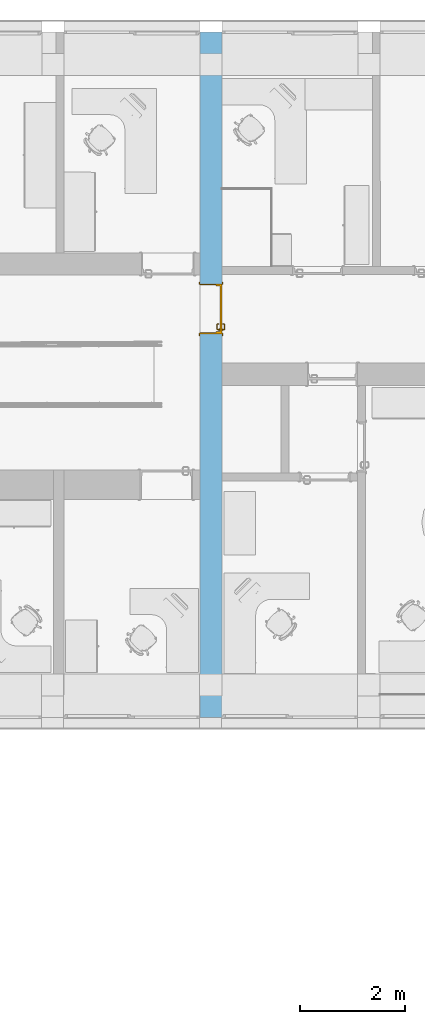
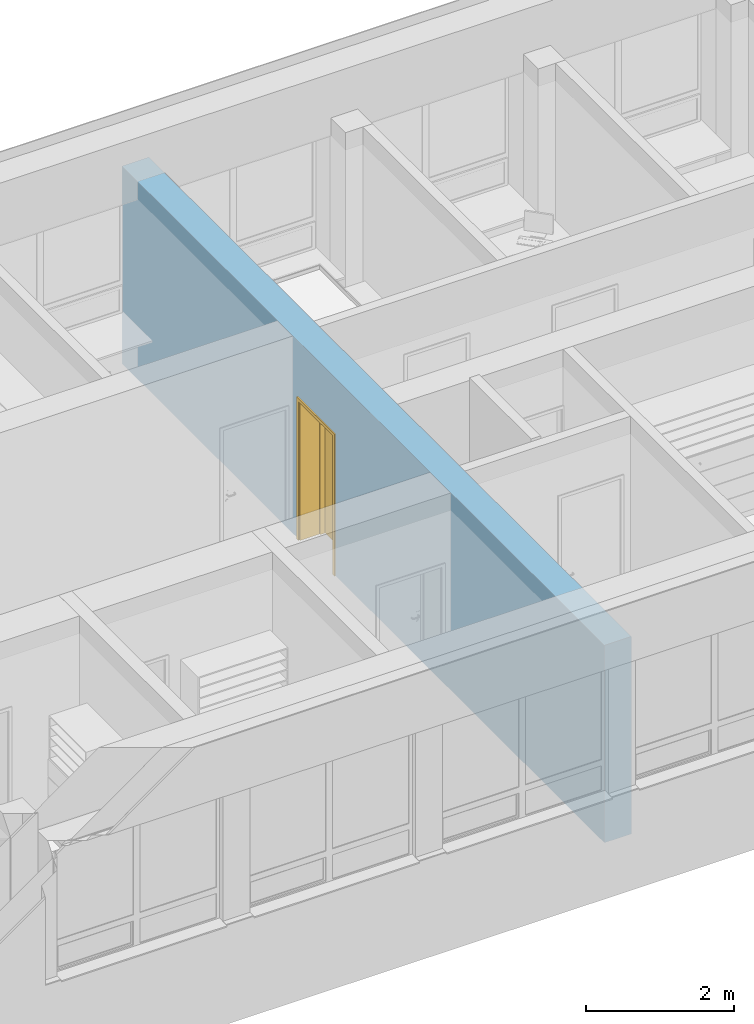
# One storey, part 69 of 194: 1 door, 1 opening, plus 1 element that does not belong to this part.
"""IFC2X3 building model written with IfcOpenShell, lengths in millimetres."""

from ifc_helpers import new_model, entity, si_unit, converted_unit, derived_unit, money_unit, direction, frame, origin_with_axes, origin_2d_with_axis, place, context, subcontext, project, spatial, polyline, rectangle, outline, extrude, open_shell, faceted_brep, surface_model, material, layer, layer_set, layer_usage, type_object, element, fill, save


model = new_model("IFC2X3")

# Units and contexts
model_context = context("Model", 3, precision=1e-05, world=origin_with_axes(), true_north=direction((0.0, 1.0)))
body_context = subcontext(model_context, "Body", "Model", "MODEL_VIEW")
ifc_project = project(units=[si_unit("LENGTHUNIT", "METRE", prefix="MILLI"), si_unit("AREAUNIT", "SQUARE_METRE"), si_unit("VOLUMEUNIT", "CUBIC_METRE"), converted_unit("PLANEANGLEUNIT", "DEGREE", entity("IfcPlaneAngleMeasure", 0.0174532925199), si_unit("PLANEANGLEUNIT", "RADIAN"), dimensions=[0, 0, 0, 0, 0, 0, 0]), si_unit("SOLIDANGLEUNIT", "STERADIAN"), money_unit("EUR"), converted_unit("TIMEUNIT", "Year", entity("IfcTimeMeasure", 31556926.0), si_unit("TIMEUNIT", "SECOND"), dimensions=[0, 0, 1, 0, 0, 0, 0]), si_unit("MASSUNIT", "GRAM", prefix="KILO"), si_unit("THERMODYNAMICTEMPERATUREUNIT", "DEGREE_CELSIUS"), si_unit("LUMINOUSINTENSITYUNIT", "LUMEN"), si_unit("ENERGYUNIT", "JOULE", prefix="MEGA"), derived_unit("THERMALCONDUCTANCEUNIT", [(si_unit("POWERUNIT", "WATT"), 1), (si_unit("LENGTHUNIT", "METRE"), -1), (si_unit("THERMODYNAMICTEMPERATUREUNIT", "KELVIN"), -1)]), derived_unit("SPECIFICHEATCAPACITYUNIT", [(si_unit("ENERGYUNIT", "JOULE"), 1), (si_unit("MASSUNIT", "GRAM", prefix="KILO"), -1), (si_unit("THERMODYNAMICTEMPERATUREUNIT", "KELVIN"), -1)]), derived_unit("MASSDENSITYUNIT", [(si_unit("MASSUNIT", "GRAM", prefix="KILO"), 1), (si_unit("VOLUMEUNIT", "CUBIC_METRE"), -1)])], contexts=[model_context])

# Site, building, storey
site_placement = place(None, origin_with_axes())
site = spatial("IfcSite", under=ifc_project, at=site_placement, Name="Site", CompositionType="ELEMENT")
building_placement = place(site_placement, origin_with_axes())
building = spatial("IfcBuilding", under=site, at=building_placement, Name="Building", CompositionType="ELEMENT")
storey_placement = place(building_placement, frame((0.0, 0.0, 3000.0), z_axis=(0.0, 0.0, 1.0), x_axis=(1.0, 0.0, 0.0)))
storey = spatial("IfcBuildingStorey", under=building, at=storey_placement, Name="2 KORRUS", CompositionType="ELEMENT", Elevation=3000.0)

# Wall, opening, door
ifc_material = material(Name="Kivi -Ol.Olev Konstruktsioon")
ifc_layer = layer(ifc_material, 420.0, ventilated="UNKNOWN")
ifc_layer_set = layer_set([ifc_layer], Name="ol.olev ss 420")
ifc_layer_usage = layer_usage(ifc_layer_set, "AXIS2", "NEGATIVE", 0.0)
wall_type = type_object("IfcWallType", Name="SW - 022", PredefinedType="NOTDEFINED")
wall_placement = place(storey_placement, frame((16157.2281674, 71917.3186821, 0.0), z_axis=(0.0, 0.0, 1.0), x_axis=(-2.03379014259e-07, -1.0, 0.0)))
wall = element("IfcWallStandardCase", 1, at=wall_placement, inside=storey, type_object=wall_type, material=ifc_layer_usage, Name="ol.olev ss 420", context=body_context, shape_type="SweptSolid", body=[
    extrude(outline(polyline([(0.0, -420.0), (13011.3600933, -420.0), (13011.3600933, 0.0), (0.0, 0.0), (0.0, -420.0)])), origin_with_axes(), (0.0, 0.0, 1.0), 3250.0),
])
opening_placement = place(wall_placement, frame((5254.87826335, -1.13686837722e-10, 0.0), z_axis=(0.0, 0.0, 1.0), x_axis=(1.0, 0.0, 0.0)))
opening = element("IfcOpeningElement", 2, at=opening_placement, cuts=wall, Name="Siseuks * Door 22", context=body_context, shape_type="SweptSolid", body=[
    extrude(rectangle(XDim=950.0, YDim=2300.0, at=origin_2d_with_axis()), frame((0.0, -420.0, 1150.0), z_axis=(0.0, -1.0, 0.0), x_axis=(-1.0, 0.0, 0.0)), (0.0, 0.0, -1.0), 1260.0),
    extrude(rectangle(XDim=1024.0, YDim=2337.0, at=origin_2d_with_axis()), frame((0.0, -420.0, 1168.5), z_axis=(0.0, -1.0, 0.0), x_axis=(-1.0, 0.0, 0.0)), (0.0, 0.0, 1.0), 420.0),
    extrude(rectangle(XDim=1024.0, YDim=2337.0, at=origin_2d_with_axis()), frame((0.0, 0.0, 1168.5), z_axis=(0.0, 1.0, 0.0), x_axis=(-1.0, 0.0, 0.0)), (0.0, 0.0, 1.0), 420.0),
])
door_style = type_object("IfcDoorStyle", Name="SU-A200   950×2\xa0300", ConstructionType="NOTDEFINED", OperationType="SINGLE_SWING_LEFT", ParameterTakesPrecedence=False, Sizeable=False)
door_placement = place(opening_placement, frame((-475.0, 2.27373675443e-10, 0.0), z_axis=(0.0, 0.0, 1.0), x_axis=(1.0, 0.0, 0.0)))
door = element("IfcDoor", 3, at=door_placement, inside=storey, type_object=door_style, Name="Siseuks * Door 22", OverallHeight=2300.0, OverallWidth=950.0, context=body_context, shape_type="SurfaceModel", body=[
    faceted_brep([(950.0, -115.0, 0.0), (950.0, -420.0, 0.0), (925.0, -420.0, 0.0), (924.999999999, -115.0, 0.0), (950.0, -115.0, 2300.0), (950.0, -420.0, 2300.0), (925.0, -420.0, 2275.0), (924.999999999, -115.0, 2275.0)], [[[0, 1, 2, 3]], [[4, 5, 1, 0]], [[1, 5, 6, 2]], [[3, 2, 6, 7]], [[0, 3, 7, 4]], [[7, 6, 5, 4]]]),
    faceted_brep([(0.0, -115.0, 2300.0), (9.09494701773e-10, -420.0, 2300.0), (25.0000000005, -420.0, 2275.0), (25.0000000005, -115.0, 2275.0), (0.0, -115.0, 0.0), (9.09494701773e-10, -420.0, 0.0), (25.0000000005, -420.0, 0.0), (25.0000000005, -115.0, 0.0)], [[[0, 1, 2, 3]], [[4, 5, 1, 0]], [[1, 5, 6, 2]], [[3, 2, 6, 7]], [[0, 3, 7, 4]], [[7, 6, 5, 4]]]),
    faceted_brep([(924.999999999, -115.0, 2275.0), (925.0, -420.0, 2275.0), (25.0000000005, -420.0, 2275.0), (25.0000000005, -115.0, 2275.0), (950.0, -115.0, 2300.0), (950.0, -420.0, 2300.0), (9.09494701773e-10, -420.0, 2300.0), (0.0, -115.0, 2300.0)], [[[0, 1, 2, 3]], [[4, 5, 1, 0]], [[1, 5, 6, 2]], [[3, 2, 6, 7]], [[0, 3, 7, 4]], [[7, 6, 5, 4]]]),
    faceted_brep([(986.999999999, -439.0, 0.0), (936.999999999, -439.0, 0.0), (937.0, -420.0, 0.0), (987.0, -420.0, 0.0), (986.999999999, -439.0, 2337.0), (936.999999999, -439.0, 2287.0), (937.0, -420.0, 2287.0), (987.0, -420.0, 2337.0)], [[[0, 1, 2, 3]], [[0, 4, 5, 1]], [[1, 5, 6, 2]], [[3, 2, 6, 7]], [[4, 0, 3, 7]], [[5, 4, 7, 6]]]),
    faceted_brep([(-36.9999999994, -439.0, 2337.0), (12.9999999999, -439.0, 2287.0), (13.0000000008, -420.0, 2287.0), (-36.9999999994, -420.0, 2337.0), (-36.9999999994, -439.0, 0.0), (12.9999999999, -439.0, 0.0), (13.0000000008, -420.0, 0.0), (-36.9999999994, -420.0, 0.0)], [[[0, 1, 2, 3]], [[0, 4, 5, 1]], [[1, 5, 6, 2]], [[3, 2, 6, 7]], [[4, 0, 3, 7]], [[5, 4, 7, 6]]]),
    faceted_brep([(986.999999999, -439.0, 2337.0), (936.999999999, -439.0, 2287.0), (937.0, -420.0, 2287.0), (987.0, -420.0, 2337.0), (-36.9999999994, -439.0, 2337.0), (12.9999999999, -439.0, 2287.0), (13.0000000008, -420.0, 2287.0), (-36.9999999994, -420.0, 2337.0)], [[[0, 1, 2, 3]], [[0, 4, 5, 1]], [[1, 5, 6, 2]], [[3, 2, 6, 7]], [[4, 0, 3, 7]], [[5, 4, 7, 6]]]),
    faceted_brep([(987.0, 18.9999999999, 0.0), (986.999999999, -1.13686837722e-10, 0.0), (937.0, -1.13686837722e-10, 0.0), (937.0, 18.9999999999, 0.0), (987.0, 18.9999999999, 2337.0), (986.999999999, -1.13686837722e-10, 2337.0), (937.0, -1.13686837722e-10, 2287.0), (937.0, 18.9999999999, 2287.0)], [[[0, 1, 2, 3]], [[4, 5, 1, 0]], [[1, 5, 6, 2]], [[3, 2, 6, 7]], [[0, 3, 7, 4]], [[7, 6, 5, 4]]]),
    faceted_brep([(-36.9999999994, 19.0, 2337.0), (-36.9999999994, 0.0, 2337.0), (12.9999999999, 0.0, 2287.0), (13.0000000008, 19.0, 2287.0), (-36.9999999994, 19.0, 0.0), (-36.9999999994, 0.0, 0.0), (12.9999999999, 0.0, 0.0), (13.0000000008, 19.0, 0.0)], [[[0, 1, 2, 3]], [[4, 5, 1, 0]], [[1, 5, 6, 2]], [[3, 2, 6, 7]], [[0, 3, 7, 4]], [[7, 6, 5, 4]]]),
    faceted_brep([(987.0, 18.9999999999, 2337.0), (986.999999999, -1.13686837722e-10, 2337.0), (937.0, -1.13686837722e-10, 2287.0), (937.0, 18.9999999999, 2287.0), (-36.9999999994, 19.0, 2337.0), (-36.9999999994, 0.0, 2337.0), (12.9999999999, 0.0, 2287.0), (13.0000000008, 19.0, 2287.0)], [[[0, 1, 2, 3]], [[4, 5, 1, 0]], [[1, 5, 6, 2]], [[3, 2, 6, 7]], [[0, 3, 7, 4]], [[7, 6, 5, 4]]]),
    faceted_brep([(910.0, -40.0000000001, 0.0), (910.0, -115.0, 0.0), (910.0, -115.0, 2260.0), (910.0, -40.0000000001, 2260.0), (922.0, -40.0000000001, 0.0), (922.0, -1.13686837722e-10, 0.0), (950.0, -1.13686837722e-10, 0.0), (950.0, -115.0, 0.0), (950.0, -115.0, 2260.0), (922.0, -40.0000000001, 2260.0), (950.0, -1.13686837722e-10, 2260.0), (922.0, -1.13686837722e-10, 2260.0)], [[[0, 1, 2, 3]], [[4, 5, 6, 7, 1, 0]], [[1, 7, 8, 2]], [[9, 3, 2, 8, 10, 11]], [[9, 4, 0, 3]], [[11, 5, 4, 9]], [[11, 10, 6, 5]], [[6, 10, 8, 7]]]),
    faceted_brep([(28.0000000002, -40.0000000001, 2260.0), (28.0000000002, 0.0, 2260.0), (0.0, 0.0, 2260.0), (0.0, -115.0, 2260.0), (40.0, -115.0, 2260.0), (40.0000000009, -40.0000000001, 2260.0), (28.0000000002, -40.0000000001, 0.0), (28.0000000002, 0.0, 0.0), (0.0, 0.0, 0.0), (0.0, -115.0, 0.0), (40.0, -115.0, 0.0), (40.0000000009, -40.0000000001, 0.0)], [[[0, 1, 2, 3, 4, 5]], [[0, 6, 7, 1]], [[7, 8, 2, 1]], [[2, 8, 9, 3]], [[3, 9, 10, 4]], [[5, 4, 10, 11]], [[5, 11, 6, 0]], [[6, 11, 10, 9, 8, 7]]]),
    faceted_brep([(922.0, -1.13686837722e-10, 2272.0), (28.0000000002, 0.0, 2272.0), (28.0000000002, 0.0, 2260.0), (0.0, 0.0, 2260.0), (0.0, 0.0, 2300.0), (950.0, -1.13686837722e-10, 2300.0), (950.0, -1.13686837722e-10, 2260.0), (922.0, -1.13686837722e-10, 2260.0), (922.0, -40.0000000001, 2272.0), (28.0000000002, -40.0000000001, 2272.0), (28.0000000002, -40.0000000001, 2260.0), (40.0000000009, -40.0000000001, 2260.0), (40.0, -115.0, 2260.0), (0.0, -115.0, 2260.0), (0.0, -115.0, 2300.0), (950.0, -115.0, 2300.0), (950.0, -115.0, 2260.0), (922.0, -40.0000000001, 2260.0), (910.0, -115.0, 2260.0), (910.0, -40.0000000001, 2260.0)], [[[0, 1, 2, 3, 4, 5, 6, 7]], [[0, 8, 9, 1]], [[1, 9, 10, 2]], [[10, 11, 12, 13, 3, 2]], [[4, 3, 13, 14]], [[5, 4, 14, 15]], [[6, 5, 15, 16]], [[17, 7, 6, 16, 18, 19]], [[7, 17, 8, 0]], [[10, 9, 8, 17, 19, 11]], [[19, 18, 12, 11]], [[12, 18, 16, 15, 14, 13]]]),
    faceted_brep([(900.5, -40.0000000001, 1060.0), (843.5, -40.0000000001, 1060.0), (843.5, -43.0000000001, 1060.0), (900.5, -43.0, 1060.0), (900.5, -40.0000000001, 870.0), (843.5, -40.0000000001, 870.0), (843.5, -43.0000000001, 870.0), (900.5, -43.0, 870.0)], [[[0, 1, 2, 3]], [[0, 4, 5, 1]], [[1, 5, 6, 2]], [[3, 2, 6, 7]], [[4, 0, 3, 7]], [[5, 4, 7, 6]]]),
    surface_model("IfcShellBasedSurfaceModel", [(862.0, -53.0, 1000.0), (864.928932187, -53.0000000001, 992.928932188), (864.928932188, -72.303560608, 992.928932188), (861.999999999, -72.0150859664, 1000.0), (871.999999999, -53.0, 990.0), (871.999999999, -73.0000000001, 990.0), (863.816790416, -77.8946748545, 992.928932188), (861.057796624, -76.7518622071, 1000.0), (864.928932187, -53.0000000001, 1007.07106781), (864.928932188, -72.303560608, 1007.07106781), (879.071067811, -53.0, 992.928932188), (879.071067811, -73.6964393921, 992.928932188), (870.47759065, -80.6536686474, 990.0), (861.044179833, -82.0441798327, 992.928932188), (858.932537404, -79.9325374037, 1000.0), (863.816790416, -77.8946748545, 1007.07106781), (871.999999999, -53.0, 1010.0), (871.999999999, -73.0000000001, 1010.0), (882.0, -53.0000000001, 1000.0), (882.0, -73.9849140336, 1000.0), (877.138390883, -83.4126624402, 992.928932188), (866.142135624, -87.1421356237, 990.0), (856.894674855, -84.8167904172, 992.928932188), (855.751862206, -82.0577966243, 1000.0), (861.044179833, -82.0441798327, 1007.07106781), (870.47759065, -80.6536686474, 1010.0), (879.071067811, -53.0, 1007.07106781), (879.071067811, -73.6964393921, 1007.07106781), (879.897384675, -84.5554750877, 1000.0), (871.240091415, -92.2400914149, 992.928932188), (859.653668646, -91.4775906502, 990.0), (851.303560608, -85.9289321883, 992.928932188), (851.015085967, -83.0000000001, 1000.0), (856.894674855, -84.8167904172, 1007.07106781), (866.142135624, -87.1421356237, 1010.0), (877.138390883, -83.4126624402, 1007.07106781), (873.351733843, -94.3517338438, 1000.0), (862.41266244, -98.1383908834, 992.928932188), (852.0, -93.0000000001, 990.0), (782.696439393, -85.9289321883, 992.928932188), (782.984914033, -83.0000000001, 1000.0), (851.303560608, -85.9289321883, 1007.07106781), (859.653668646, -91.4775906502, 1010.0), (871.240091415, -92.2400914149, 1007.07106781), (863.555475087, -100.897384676, 1000.0), (852.696439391, -100.071067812, 992.928932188), (782.0, -93.0000000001, 990.0), (777.105325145, -84.8167904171, 992.928932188), (778.248137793, -82.0577966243, 1000.0), (782.696439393, -85.9289321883, 1007.07106781), (852.0, -93.0000000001, 1010.0), (862.41266244, -98.1383908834, 1007.07106781), (852.984914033, -103.0, 1000.0), (781.303560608, -100.071067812, 992.928932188), (774.346331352, -91.4775906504, 990.0), (772.955820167, -82.0441798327, 992.928932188), (775.067462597, -79.9325374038, 1000.0), (777.105325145, -84.8167904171, 1007.07106781), (782.0, -93.0000000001, 1010.0), (852.696439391, -100.071067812, 1007.07106781), (781.015085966, -103.0, 1000.0), (771.58733756, -98.1383908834, 992.928932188), (767.857864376, -87.1421356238, 990.0), (770.183209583, -77.8946748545, 992.928932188), (772.942203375, -76.7518622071, 1000.0), (772.955820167, -82.0441798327, 1007.07106781), (774.346331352, -91.4775906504, 1010.0), (781.303560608, -100.071067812, 1007.07106781), (770.444524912, -100.897384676, 1000.0), (762.759908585, -92.2400914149, 992.928932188), (763.522409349, -80.6536686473, 990.0), (769.071067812, -72.303560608, 992.928932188), (772.0, -72.0150859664, 1000.0), (770.183209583, -77.8946748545, 1007.07106781), (767.857864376, -87.1421356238, 1010.0), (771.58733756, -98.1383908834, 1007.07106781), (760.648266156, -94.3517338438, 1000.0), (756.861609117, -83.4126624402, 992.928932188), (762.0, -73.0000000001, 990.0), (769.071067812, -53.0000000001, 992.928932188), (772.0, -53.0, 1000.0), (769.071067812, -72.303560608, 1007.07106781), (763.522409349, -80.6536686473, 1010.0), (762.759908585, -92.2400914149, 1007.07106781), (754.102615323, -84.5554750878, 1000.0), (754.928932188, -73.6964393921, 992.928932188), (762.0, -53.0000000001, 990.0), (754.928932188, -53.0, 992.928932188), (751.999999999, -53.0000000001, 1000.0), (754.928932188, -53.0, 1007.07106781), (762.0, -53.0000000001, 1010.0), (769.071067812, -53.0000000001, 1007.07106781), (762.0, -73.0000000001, 1010.0), (756.861609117, -83.4126624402, 1007.07106781), (752.0, -73.9849140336, 1000.0), (754.928932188, -73.6964393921, 1007.07106781)], [open_shell([[[0, 1, 2, 3]], [[1, 4, 5, 2]], [[3, 2, 6, 7]], [[8, 0, 3, 9]], [[4, 10, 11, 5]], [[2, 5, 12, 6]], [[7, 6, 13, 14]], [[9, 3, 7, 15]], [[16, 8, 9, 17]], [[10, 18, 19, 11]], [[5, 11, 20, 12]], [[6, 12, 21, 13]], [[14, 13, 22, 23]], [[15, 7, 14, 24]], [[17, 9, 15, 25]], [[26, 16, 17, 27]], [[18, 26, 27, 19]], [[11, 19, 28, 20]], [[12, 20, 29, 21]], [[13, 21, 30, 22]], [[23, 22, 31, 32]], [[24, 14, 23, 33]], [[25, 15, 24, 34]], [[27, 17, 25, 35]], [[19, 27, 35, 28]], [[20, 28, 36, 29]], [[21, 29, 37, 30]], [[22, 30, 38, 31]], [[32, 31, 39, 40]], [[33, 23, 32, 41]], [[34, 24, 33, 42]], [[35, 25, 34, 43]], [[28, 35, 43, 36]], [[29, 36, 44, 37]], [[30, 37, 45, 38]], [[31, 38, 46, 39]], [[40, 39, 47, 48]], [[41, 32, 40, 49]], [[42, 33, 41, 50]], [[43, 34, 42, 51]], [[36, 43, 51, 44]], [[37, 44, 52, 45]], [[38, 45, 53, 46]], [[39, 46, 54, 47]], [[48, 47, 55, 56]], [[49, 40, 48, 57]], [[50, 41, 49, 58]], [[51, 42, 50, 59]], [[44, 51, 59, 52]], [[45, 52, 60, 53]], [[46, 53, 61, 54]], [[47, 54, 62, 55]], [[56, 55, 63, 64]], [[57, 48, 56, 65]], [[58, 49, 57, 66]], [[59, 50, 58, 67]], [[52, 59, 67, 60]], [[53, 60, 68, 61]], [[54, 61, 69, 62]], [[55, 62, 70, 63]], [[64, 63, 71, 72]], [[65, 56, 64, 73]], [[66, 57, 65, 74]], [[67, 58, 66, 75]], [[60, 67, 75, 68]], [[61, 68, 76, 69]], [[62, 69, 77, 70]], [[63, 70, 78, 71]], [[72, 71, 79, 80]], [[73, 64, 72, 81]], [[74, 65, 73, 82]], [[75, 66, 74, 83]], [[68, 75, 83, 76]], [[69, 76, 84, 77]], [[70, 77, 85, 78]], [[71, 78, 86, 79]], [[80, 79, 86, 87, 88, 89, 90, 91]], [[81, 72, 80, 91]], [[82, 73, 81, 92]], [[83, 74, 82, 93]], [[76, 83, 93, 84]], [[77, 84, 94, 85]], [[78, 85, 87, 86]], [[85, 94, 88, 87]], [[94, 95, 89, 88]], [[95, 92, 90, 89]], [[92, 81, 91, 90]], [[93, 82, 92, 95]], [[84, 93, 95, 94]]])]),
    faceted_brep([(861.607695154, -53.0, 994.0), (860.0, -53.0, 1000.0), (858.999999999, -43.0, 1000.0), (860.74166975, -43.0000000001, 993.5), (866.0, -53.0000000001, 989.607695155), (871.999999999, -53.0, 988.0), (878.0, -53.0, 989.607695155), (882.392304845, -53.0000000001, 994.0), (884.0, -53.0000000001, 1000.0), (882.392304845, -53.0000000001, 1006.0), (878.0, -53.0, 1010.39230485), (871.999999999, -53.0, 1012.0), (866.0, -53.0000000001, 1010.39230485), (861.607695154, -53.0, 1006.0), (860.74166975, -43.0000000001, 1006.5), (865.5, -43.0, 1011.25833025), (872.0, -43.0, 1013.0), (878.5, -43.0000000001, 1011.25833025), (883.258330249, -43.0000000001, 1006.5), (885.0, -43.0000000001, 1000.0), (883.258330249, -43.0000000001, 993.5), (878.5, -43.0000000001, 988.741669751), (872.0, -43.0, 987.0), (865.5, -43.0, 988.741669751)], [[[0, 1, 2, 3]], [[1, 0, 4, 5, 6, 7, 8, 9, 10, 11, 12, 13]], [[1, 13, 14, 2]], [[2, 14, 15, 16, 17, 18, 19, 20, 21, 22, 23, 3]], [[4, 0, 3, 23]], [[5, 4, 23, 22]], [[6, 5, 22, 21]], [[7, 6, 21, 20]], [[8, 7, 20, 19]], [[9, 8, 19, 18]], [[10, 9, 18, 17]], [[11, 10, 17, 16]], [[12, 11, 16, 15]], [[13, 12, 15, 14]]]),
    faceted_brep([(854.679491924, -47.0, 895.0), (852.0, -47.0, 905.0), (849.999999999, -43.0000000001, 905.0), (852.947441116, -43.0000000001, 894.0), (861.999999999, -47.0, 887.679491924), (871.999999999, -47.0, 885.0), (882.0, -47.0000000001, 887.679491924), (889.320508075, -47.0000000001, 895.0), (892.0, -47.0, 905.0), (889.320508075, -47.0000000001, 915.0), (882.0, -47.0000000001, 922.320508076), (871.999999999, -47.0, 925.0), (861.999999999, -47.0, 922.320508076), (854.679491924, -47.0, 915.0), (852.947441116, -43.0000000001, 916.0), (861.0, -43.0, 924.052558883), (872.0, -43.0, 927.0), (883.0, -43.0000000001, 924.052558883), (891.052558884, -43.0, 916.0), (894.0, -43.0, 905.0), (891.052558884, -43.0, 894.0), (883.0, -43.0000000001, 885.947441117), (872.0, -43.0, 883.0), (861.0, -43.0, 885.947441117)], [[[0, 1, 2, 3]], [[1, 0, 4, 5, 6, 7, 8, 9, 10, 11, 12, 13]], [[1, 13, 14, 2]], [[2, 14, 15, 16, 17, 18, 19, 20, 21, 22, 23, 3]], [[4, 0, 3, 23]], [[5, 4, 23, 22]], [[6, 5, 22, 21]], [[7, 6, 21, 20]], [[8, 7, 20, 19]], [[9, 8, 19, 18]], [[10, 9, 18, 17]], [[11, 10, 17, 16]], [[12, 11, 16, 15]], [[13, 12, 15, 14]]]),
    faceted_brep([(867.050252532, -49.0000000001, 909.050252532), (865.0, -49.0000000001, 914.0), (864.0, -47.0000000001, 914.0), (866.34314575, -47.0, 908.343145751), (872.0, -49.0000000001, 907.0), (876.949747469, -49.0, 909.050252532), (879.0, -49.0, 914.0), (876.949747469, -49.0, 918.949747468), (872.0, -49.0000000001, 921.0), (867.050252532, -49.0000000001, 918.949747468), (866.34314575, -47.0, 919.656854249), (871.999999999, -47.0, 922.0), (877.656854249, -47.0, 919.656854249), (879.999999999, -47.0000000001, 914.0), (877.656854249, -47.0, 908.343145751), (871.999999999, -47.0, 906.0)], [[[0, 1, 2, 3]], [[1, 0, 4, 5, 6, 7, 8, 9]], [[1, 9, 10, 2]], [[2, 10, 11, 12, 13, 14, 15, 3]], [[4, 0, 3, 15]], [[5, 4, 15, 14]], [[6, 5, 14, 13]], [[7, 6, 13, 12]], [[8, 7, 12, 11]], [[9, 8, 11, 10]]]),
    faceted_brep([(900.5, 0.0, 1060.0), (900.5, 2.99999999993, 1060.0), (843.499999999, 2.99999999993, 1060.0), (843.499999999, -1.13686837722e-10, 1060.0), (900.5, 0.0, 870.0), (900.5, 2.99999999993, 870.0), (843.499999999, 2.99999999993, 870.0), (843.499999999, -1.13686837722e-10, 870.0)], [[[0, 1, 2, 3]], [[4, 5, 1, 0]], [[1, 5, 6, 2]], [[3, 2, 6, 7]], [[0, 3, 7, 4]], [[7, 6, 5, 4]]]),
    surface_model("IfcShellBasedSurfaceModel", [(861.999999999, 13.0, 1000.0), (861.999999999, 32.0150859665, 1000.0), (864.928932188, 32.3035606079, 992.928932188), (864.928932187, 12.9999999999, 992.928932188), (864.928932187, 12.9999999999, 1007.07106781), (864.928932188, 32.3035606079, 1007.07106781), (861.057796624, 36.7518622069, 1000.0), (863.816790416, 37.8946748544, 992.928932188), (871.999999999, 32.9999999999, 990.0), (871.999999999, 12.9999999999, 990.0), (871.999999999, 12.9999999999, 1010.0), (871.999999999, 32.9999999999, 1010.0), (863.816790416, 37.8946748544, 1007.07106781), (858.932537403, 39.9325374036, 1000.0), (861.044179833, 42.0441798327, 992.928932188), (870.47759065, 40.6536686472, 990.0), (879.071067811, 33.696439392, 992.928932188), (879.071067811, 13.0, 992.928932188), (879.071067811, 13.0, 1007.07106781), (879.071067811, 33.696439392, 1007.07106781), (870.47759065, 40.6536686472, 1010.0), (861.044179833, 42.0441798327, 1007.07106781), (855.751862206, 42.0577966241, 1000.0), (856.894674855, 44.8167904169, 992.928932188), (866.142135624, 47.1421356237, 990.0), (877.138390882, 43.41266244, 992.928932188), (882.0, 33.9849140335, 1000.0), (882.0, 12.9999999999, 1000.0), (877.138390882, 43.41266244, 1007.07106781), (866.142135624, 47.1421356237, 1010.0), (856.894674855, 44.8167904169, 1007.07106781), (851.015085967, 42.9999999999, 1000.0), (851.303560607, 45.9289321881, 992.928932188), (859.653668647, 51.4775906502, 990.0), (871.240091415, 52.2400914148, 992.928932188), (879.897384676, 44.5554750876, 1000.0), (871.240091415, 52.2400914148, 1007.07106781), (859.653668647, 51.4775906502, 1010.0), (851.303560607, 45.9289321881, 1007.07106781), (782.984914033, 42.9999999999, 1000.0), (782.696439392, 45.9289321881, 992.928932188), (852.0, 52.9999999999, 990.0), (862.41266244, 58.1383908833, 992.928932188), (873.351733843, 54.3517338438, 1000.0), (862.41266244, 58.1383908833, 1007.07106781), (852.0, 52.9999999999, 1010.0), (782.696439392, 45.9289321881, 1007.07106781), (778.248137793, 42.0577966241, 1000.0), (777.105325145, 44.816790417, 992.928932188), (782.0, 52.9999999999, 990.0), (852.696439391, 60.0710678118, 992.928932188), (863.555475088, 60.8973846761, 1000.0), (852.696439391, 60.0710678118, 1007.07106781), (782.0, 52.9999999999, 1010.0), (777.105325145, 44.816790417, 1007.07106781), (775.067462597, 39.9325374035, 1000.0), (772.955820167, 42.0441798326, 992.928932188), (774.346331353, 51.4775906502, 990.0), (781.303560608, 60.0710678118, 992.928932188), (852.984914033, 62.9999999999, 1000.0), (781.303560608, 60.0710678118, 1007.07106781), (774.346331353, 51.4775906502, 1010.0), (772.955820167, 42.0441798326, 1007.07106781), (772.942203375, 36.7518622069, 1000.0), (770.183209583, 37.8946748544, 992.928932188), (767.857864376, 47.1421356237, 990.0), (771.58733756, 58.1383908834, 992.928932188), (781.015085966, 62.9999999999, 1000.0), (771.58733756, 58.1383908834, 1007.07106781), (767.857864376, 47.1421356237, 1010.0), (770.183209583, 37.8946748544, 1007.07106781), (772.0, 32.0150859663, 1000.0), (769.071067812, 32.3035606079, 992.928932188), (763.522409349, 40.6536686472, 990.0), (762.759908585, 52.2400914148, 992.928932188), (770.444524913, 60.8973846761, 1000.0), (762.759908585, 52.2400914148, 1007.07106781), (763.522409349, 40.6536686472, 1010.0), (769.071067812, 32.3035606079, 1007.07106781), (771.999999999, 12.9999999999, 1000.0), (769.071067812, 12.9999999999, 992.928932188), (762.0, 32.9999999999, 990.0), (756.861609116, 43.41266244, 992.928932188), (760.648266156, 54.3517338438, 1000.0), (756.861609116, 43.41266244, 1007.07106781), (762.0, 32.9999999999, 1010.0), (769.071067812, 12.9999999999, 1007.07106781), (762.0, 12.9999999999, 1010.0), (754.928932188, 12.9999999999, 1007.07106781), (751.999999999, 12.9999999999, 1000.0), (754.928932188, 12.9999999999, 992.928932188), (762.0, 12.9999999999, 990.0), (754.928932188, 33.696439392, 992.928932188), (754.102615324, 44.5554750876, 1000.0), (754.928932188, 33.696439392, 1007.07106781), (752.0, 33.9849140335, 1000.0)], [open_shell([[[0, 1, 2, 3]], [[4, 5, 1, 0]], [[1, 6, 7, 2]], [[3, 2, 8, 9]], [[10, 11, 5, 4]], [[5, 12, 6, 1]], [[6, 13, 14, 7]], [[2, 7, 15, 8]], [[9, 8, 16, 17]], [[18, 19, 11, 10]], [[11, 20, 12, 5]], [[12, 21, 13, 6]], [[13, 22, 23, 14]], [[7, 14, 24, 15]], [[8, 15, 25, 16]], [[17, 16, 26, 27]], [[27, 26, 19, 18]], [[19, 28, 20, 11]], [[20, 29, 21, 12]], [[21, 30, 22, 13]], [[22, 31, 32, 23]], [[14, 23, 33, 24]], [[15, 24, 34, 25]], [[16, 25, 35, 26]], [[26, 35, 28, 19]], [[28, 36, 29, 20]], [[29, 37, 30, 21]], [[30, 38, 31, 22]], [[31, 39, 40, 32]], [[23, 32, 41, 33]], [[24, 33, 42, 34]], [[25, 34, 43, 35]], [[35, 43, 36, 28]], [[36, 44, 37, 29]], [[37, 45, 38, 30]], [[38, 46, 39, 31]], [[39, 47, 48, 40]], [[32, 40, 49, 41]], [[33, 41, 50, 42]], [[34, 42, 51, 43]], [[43, 51, 44, 36]], [[44, 52, 45, 37]], [[45, 53, 46, 38]], [[46, 54, 47, 39]], [[47, 55, 56, 48]], [[40, 48, 57, 49]], [[41, 49, 58, 50]], [[42, 50, 59, 51]], [[51, 59, 52, 44]], [[52, 60, 53, 45]], [[53, 61, 54, 46]], [[54, 62, 55, 47]], [[55, 63, 64, 56]], [[48, 56, 65, 57]], [[49, 57, 66, 58]], [[50, 58, 67, 59]], [[59, 67, 60, 52]], [[60, 68, 61, 53]], [[61, 69, 62, 54]], [[62, 70, 63, 55]], [[63, 71, 72, 64]], [[56, 64, 73, 65]], [[57, 65, 74, 66]], [[58, 66, 75, 67]], [[67, 75, 68, 60]], [[68, 76, 69, 61]], [[69, 77, 70, 62]], [[70, 78, 71, 63]], [[71, 79, 80, 72]], [[64, 72, 81, 73]], [[65, 73, 82, 74]], [[66, 74, 83, 75]], [[75, 83, 76, 68]], [[76, 84, 77, 69]], [[77, 85, 78, 70]], [[78, 86, 79, 71]], [[79, 86, 87, 88, 89, 90, 91, 80]], [[72, 80, 91, 81]], [[73, 81, 92, 82]], [[74, 82, 93, 83]], [[83, 93, 84, 76]], [[84, 94, 85, 77]], [[85, 87, 86, 78]], [[94, 88, 87, 85]], [[95, 89, 88, 94]], [[92, 90, 89, 95]], [[81, 91, 90, 92]], [[82, 92, 95, 93]], [[93, 95, 94, 84]]])]),
    faceted_brep([(861.607695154, 12.9999999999, 994.0), (860.74166975, 2.99999999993, 993.5), (858.999999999, 2.99999999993, 1000.0), (860.0, 13.0, 1000.0), (865.999999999, 12.9999999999, 989.607695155), (865.499999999, 2.99999999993, 988.741669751), (871.999999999, 2.99999999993, 987.0), (878.499999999, 2.99999999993, 988.741669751), (883.258330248, 2.99999999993, 993.5), (884.999999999, 2.99999999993, 1000.0), (883.258330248, 2.99999999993, 1006.5), (878.499999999, 2.99999999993, 1011.25833025), (871.999999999, 2.99999999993, 1013.0), (865.499999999, 2.99999999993, 1011.25833025), (860.74166975, 2.99999999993, 1006.5), (861.607695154, 12.9999999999, 1006.0), (865.999999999, 12.9999999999, 1010.39230485), (871.999999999, 12.9999999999, 1012.0), (878.0, 13.0, 1010.39230485), (882.392304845, 12.9999999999, 1006.0), (883.999999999, 12.9999999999, 1000.0), (882.392304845, 12.9999999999, 994.0), (878.0, 13.0, 989.607695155), (871.999999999, 12.9999999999, 988.0)], [[[0, 1, 2, 3]], [[4, 5, 1, 0]], [[2, 1, 5, 6, 7, 8, 9, 10, 11, 12, 13, 14]], [[3, 2, 14, 15]], [[3, 15, 16, 17, 18, 19, 20, 21, 22, 23, 4, 0]], [[23, 6, 5, 4]], [[22, 7, 6, 23]], [[21, 8, 7, 22]], [[20, 9, 8, 21]], [[19, 10, 9, 20]], [[18, 11, 10, 19]], [[17, 12, 11, 18]], [[16, 13, 12, 17]], [[15, 14, 13, 16]]]),
    faceted_brep([(854.679491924, 6.99999999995, 895.0), (852.947441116, 2.99999999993, 894.0), (849.999999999, 2.99999999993, 905.0), (852.0, 6.99999999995, 905.0), (862.0, 6.99999999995, 887.679491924), (860.999999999, 3.00000000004, 885.947441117), (871.999999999, 2.99999999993, 883.0), (882.999999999, 2.99999999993, 885.947441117), (891.052558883, 2.99999999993, 894.0), (893.999999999, 2.99999999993, 905.0), (891.052558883, 2.99999999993, 916.0), (882.999999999, 2.99999999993, 924.052558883), (871.999999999, 2.99999999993, 927.0), (860.999999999, 3.00000000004, 924.052558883), (852.947441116, 2.99999999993, 916.0), (854.679491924, 6.99999999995, 915.0), (862.0, 6.99999999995, 922.320508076), (871.999999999, 6.99999999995, 925.0), (882.0, 6.99999999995, 922.320508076), (889.320508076, 6.99999999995, 915.0), (892.0, 6.99999999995, 905.0), (889.320508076, 6.99999999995, 895.0), (882.0, 6.99999999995, 887.679491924), (871.999999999, 6.99999999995, 885.0)], [[[0, 1, 2, 3]], [[4, 5, 1, 0]], [[2, 1, 5, 6, 7, 8, 9, 10, 11, 12, 13, 14]], [[3, 2, 14, 15]], [[3, 15, 16, 17, 18, 19, 20, 21, 22, 23, 4, 0]], [[23, 6, 5, 4]], [[22, 7, 6, 23]], [[21, 8, 7, 22]], [[20, 9, 8, 21]], [[19, 10, 9, 20]], [[18, 11, 10, 19]], [[17, 12, 11, 18]], [[16, 13, 12, 17]], [[15, 14, 13, 16]]]),
    faceted_brep([(867.050252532, 8.9999999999, 909.050252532), (866.34314575, 6.99999999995, 908.343145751), (864.0, 6.99999999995, 914.0), (865.0, 8.9999999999, 914.0), (872.0, 8.9999999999, 907.0), (871.999999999, 6.99999999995, 906.0), (877.656854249, 6.99999999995, 908.343145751), (880.0, 6.99999999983, 914.0), (877.656854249, 6.99999999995, 919.656854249), (871.999999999, 6.99999999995, 922.0), (866.34314575, 6.99999999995, 919.656854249), (867.050252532, 8.9999999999, 918.949747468), (872.0, 8.9999999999, 921.0), (876.949747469, 9.00000000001, 918.949747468), (879.0, 9.00000000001, 914.0), (876.949747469, 9.00000000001, 909.050252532)], [[[0, 1, 2, 3]], [[4, 5, 1, 0]], [[2, 1, 5, 6, 7, 8, 9, 10]], [[3, 2, 10, 11]], [[3, 11, 12, 13, 14, 15, 4, 0]], [[15, 6, 5, 4]], [[14, 7, 6, 15]], [[13, 8, 7, 14]], [[12, 9, 8, 13]], [[11, 10, 9, 12]]]),
    faceted_brep([(28.0000000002, 0.0, 0.0), (922.0, -1.13686837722e-10, 0.0), (922.0, -40.0000000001, 0.0), (28.0000000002, -40.0000000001, 0.0), (28.0000000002, 0.0, 2272.0), (922.0, -1.13686837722e-10, 2272.0), (922.0, -40.0000000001, 2272.0), (28.0000000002, -40.0000000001, 2272.0)], [[[0, 1, 2, 3]], [[0, 4, 5, 1]], [[1, 5, 6, 2]], [[3, 2, 6, 7]], [[4, 0, 3, 7]], [[5, 4, 7, 6]]]),
])
fill(opening, door)

save(model, "model.ifc")
